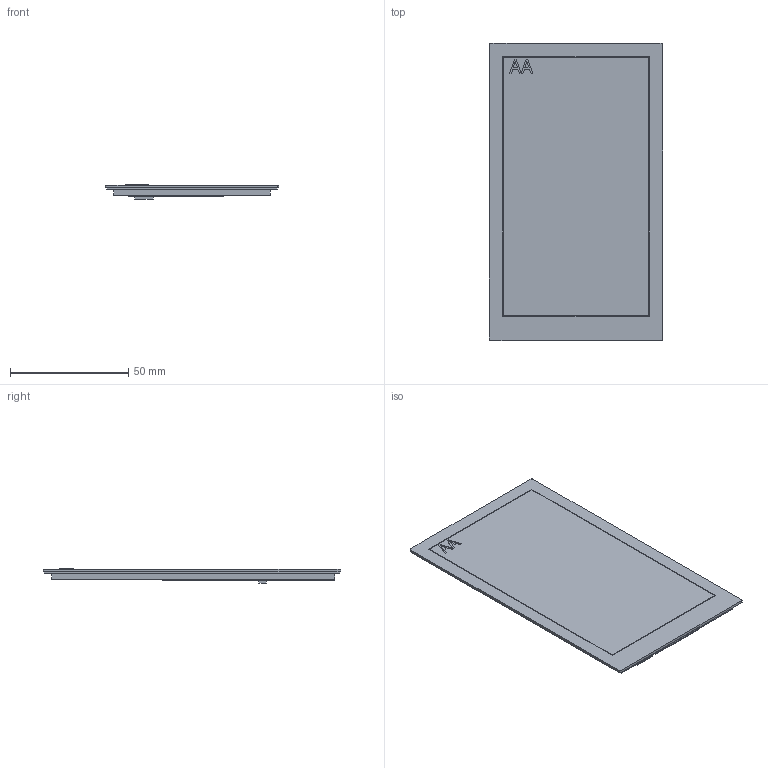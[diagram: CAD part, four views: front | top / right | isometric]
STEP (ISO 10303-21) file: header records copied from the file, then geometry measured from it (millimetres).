
FILE_DESCRIPTION(/* description */ (''),/* implementation_level */ '2;1');
FILE_NAME(/* name */ 'VTc050T64C.stp',/* time_stamp */ '2024-05-31T16:48:51+08:00',/* author */ (''),/* organization */ (''),/* preprocessor_version */ 'ST-DEVELOPER v16',/* originating_system */ 'SIEMENS PLM Software NX 10.0',/* authorisation */ '');
FILE_SCHEMA (('AP203_CONFIGURATION_CONTROLLED_3D_DESIGN_OF_MECHANICAL_PARTS_AND_ASSEMBLIES_MIM_LF { 1 0 10303 403 2 1 2}'));
Length unit declared in the file: millimetre
Products named in the file (1): VTc050T64C
Bounding box: 73.33 x 126.13 x 6 mm (x, y, z)
Volume: 36235.8 mm3; surface area: 85738.2 mm2
Topology: 13 solids, 13 shells, 84 faces, 174 edges, 116 vertices
Faces by surface type: plane 76, extrusion 8
Entity records: 3231 total; most frequent: CARTESIAN_POINT 969, ORIENTED_EDGE 348, DIRECTION 260, EDGE_CURVE 174, VERTEX_POINT 116, VECTOR 106, LINE 98, EDGE_LOOP 86
